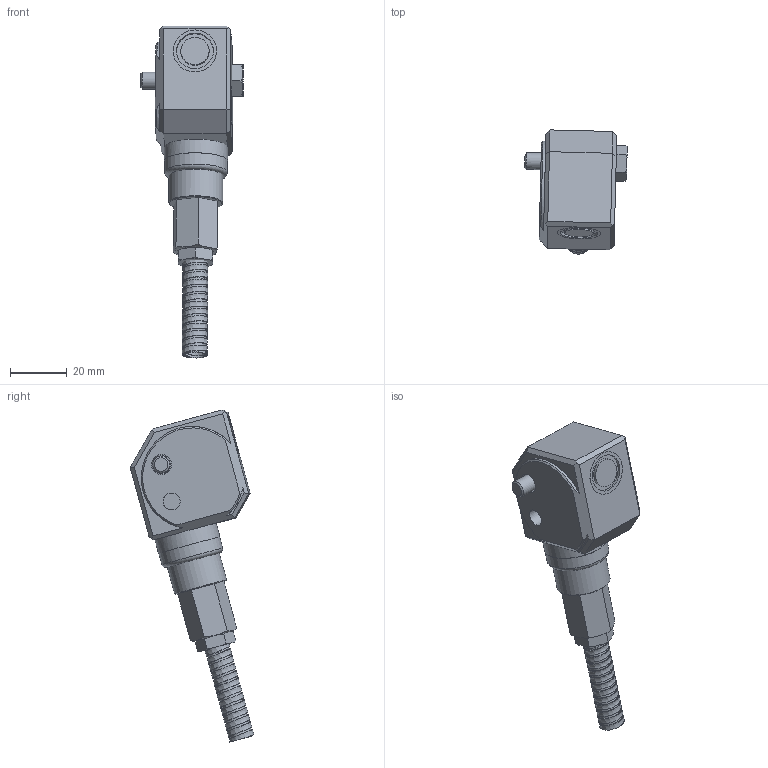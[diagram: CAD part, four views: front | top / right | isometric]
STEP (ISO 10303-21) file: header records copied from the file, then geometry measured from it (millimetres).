
FILE_DESCRIPTION(/* description */ (''),/* implementation_level */ '2;1');
FILE_NAME(/* name */ 'Z:\Engineering\Drawings\3D Library\Assemblies\Website\Triaxial Side\HS-173 HFFR Conduit\HS-173XXX37C06.stp',/* time_stamp */ '2023-03-25T20:59:39+00:00',/* author */ ('Ricardo.Peneda'),/* organization */ (''),/* preprocessor_version */ 'ST-DEVELOPER v18.1',/* originating_system */ 'Autodesk Inventor 2021',/* authorisation */ '');
FILE_SCHEMA (('AUTOMOTIVE_DESIGN { 1 0 10303 214 3 1 1 }'));
Length unit declared in the file: inch
Products named in the file (1): HS-173XXX37C06_Shrinkwrap_1
Bounding box: 36.19 x 43.64 x 117.13 mm (x, y, z)
Volume: 31730.5 mm3; surface area: 21224.1 mm2
Topology: 8 solids, 8 shells, 166 faces, 420 edges, 298 vertices
Faces by surface type: plane 87, cylinder 38, cone 31, bspline 8, torus 2
Full cylindrical faces by diameter (mm): 4.5 x1, 6 x3, 6.5 x1, 7 x1, 7.9 x2, 8.6 x1, 9 x1, 10 x2, 10.2 x1, 11.959 x1, 12 x3, 13 x2, 14 x2, 14.95 x3, 15 x2, 15.34 x2, 15.35 x2, 18 x1, 19 x1, 19.95 x1, 20.23 x1, 22.2 x1, 22.43 x1
Entity records: 19313 total; most frequent: CARTESIAN_POINT 15016, DIRECTION 868, ORIENTED_EDGE 840, EDGE_CURVE 420, AXIS2_PLACEMENT_3D 352, VERTEX_POINT 298, EDGE_LOOP 200, CIRCLE 187
